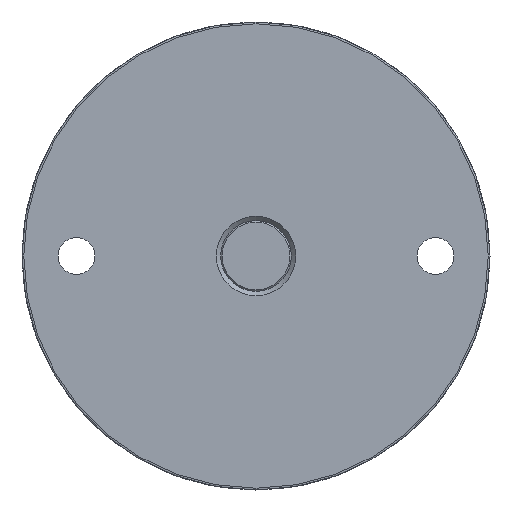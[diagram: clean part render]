
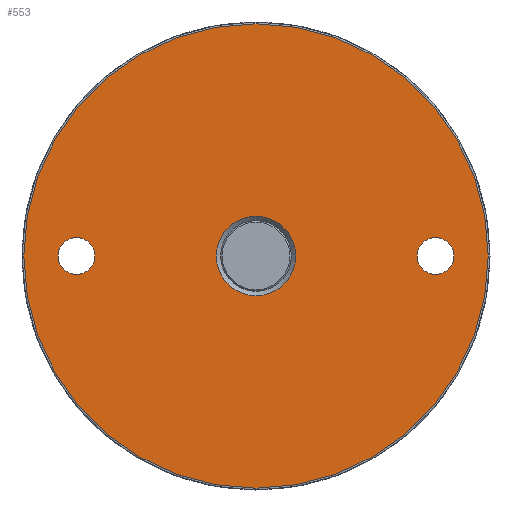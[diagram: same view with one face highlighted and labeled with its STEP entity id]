
A CAD part, front view. The second image highlights one B-rep face of the part: STEP entity #553.
In plain terms, the highlighted planar face has unit normal (0, -1, 0).
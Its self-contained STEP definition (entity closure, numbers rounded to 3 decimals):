
#37=CARTESIAN_POINT('',(1338.657,979.046,0.0));
#38=VERTEX_POINT('',#37);
#65=CARTESIAN_POINT('',(1180.857,979.046,0.0));
#66=VERTEX_POINT('',#65);
#67=CARTESIAN_POINT('',(1259.757,979.046,0.0));
#68=DIRECTION('',(0.0,-1.0,0.0));
#69=DIRECTION('',(1.0,0.0,0.0));
#70=AXIS2_PLACEMENT_3D('',#67,#68,#69);
#71=CIRCLE('',#70,78.9);
#72=EDGE_CURVE('',#66,#38,#71,.T.);
#74=CARTESIAN_POINT('',(1259.757,979.046,0.0));
#75=DIRECTION('',(0.0,-1.0,0.0));
#76=DIRECTION('',(1.0,0.0,0.0));
#77=AXIS2_PLACEMENT_3D('',#74,#75,#76);
#78=CIRCLE('',#77,78.9);
#79=EDGE_CURVE('',#38,#66,#78,.T.);
#484=CARTESIAN_POINT('',(1180.856,979.046,-78.901));
#485=DIRECTION('',(0.0,1.0,0.0));
#486=DIRECTION('',(0.0,0.0,1.0));
#487=AXIS2_PLACEMENT_3D('',#484,#485,#486);
#488=PLANE('',#487);
#489=ORIENTED_EDGE('',*,*,#79,.T.);
#490=ORIENTED_EDGE('',*,*,#72,.T.);
#491=EDGE_LOOP('',(#489,#490));
#492=FACE_OUTER_BOUND('',#491,.T.);
#493=CARTESIAN_POINT('',(1246.257,979.046,0.0));
#494=VERTEX_POINT('',#493);
#495=CARTESIAN_POINT('',(1273.257,979.046,0.0));
#496=VERTEX_POINT('',#495);
#497=CARTESIAN_POINT('',(1259.757,979.046,0.0));
#498=DIRECTION('',(0.0,-1.0,0.0));
#499=DIRECTION('',(1.0,0.0,0.0));
#500=AXIS2_PLACEMENT_3D('',#497,#498,#499);
#501=CIRCLE('',#500,13.5);
#502=EDGE_CURVE('',#494,#496,#501,.T.);
#503=ORIENTED_EDGE('',*,*,#502,.F.);
#504=CARTESIAN_POINT('',(1259.757,979.046,0.0));
#505=DIRECTION('',(0.0,-1.0,0.0));
#506=DIRECTION('',(1.0,0.0,0.0));
#507=AXIS2_PLACEMENT_3D('',#504,#505,#506);
#508=CIRCLE('',#507,13.5);
#509=EDGE_CURVE('',#496,#494,#508,.T.);
#510=ORIENTED_EDGE('',*,*,#509,.F.);
#511=EDGE_LOOP('',(#503,#510));
#512=FACE_BOUND('',#511,.T.);
#513=CARTESIAN_POINT('',(1198.757,979.046,-6.25));
#514=VERTEX_POINT('',#513);
#515=CARTESIAN_POINT('',(1198.757,979.046,6.25));
#516=VERTEX_POINT('',#515);
#517=CARTESIAN_POINT('',(1198.757,979.046,0.));
#518=DIRECTION('',(0.0,-1.0,0.0));
#519=DIRECTION('',(0.0,0.0,1.0));
#520=AXIS2_PLACEMENT_3D('',#517,#518,#519);
#521=CIRCLE('',#520,6.25);
#522=EDGE_CURVE('',#514,#516,#521,.T.);
#523=ORIENTED_EDGE('',*,*,#522,.F.);
#524=CARTESIAN_POINT('',(1198.757,979.046,0.));
#525=DIRECTION('',(0.0,-1.0,0.0));
#526=DIRECTION('',(0.0,0.0,1.0));
#527=AXIS2_PLACEMENT_3D('',#524,#525,#526);
#528=CIRCLE('',#527,6.25);
#529=EDGE_CURVE('',#516,#514,#528,.T.);
#530=ORIENTED_EDGE('',*,*,#529,.F.);
#531=EDGE_LOOP('',(#523,#530));
#532=FACE_BOUND('',#531,.T.);
#533=CARTESIAN_POINT('',(1320.757,979.046,-6.25));
#534=VERTEX_POINT('',#533);
#535=CARTESIAN_POINT('',(1320.757,979.046,6.25));
#536=VERTEX_POINT('',#535);
#537=CARTESIAN_POINT('',(1320.757,979.046,0.));
#538=DIRECTION('',(0.0,-1.0,0.0));
#539=DIRECTION('',(0.0,0.0,1.0));
#540=AXIS2_PLACEMENT_3D('',#537,#538,#539);
#541=CIRCLE('',#540,6.25);
#542=EDGE_CURVE('',#534,#536,#541,.T.);
#543=ORIENTED_EDGE('',*,*,#542,.F.);
#544=CARTESIAN_POINT('',(1320.757,979.046,0.));
#545=DIRECTION('',(0.0,-1.0,0.0));
#546=DIRECTION('',(0.0,0.0,1.0));
#547=AXIS2_PLACEMENT_3D('',#544,#545,#546);
#548=CIRCLE('',#547,6.25);
#549=EDGE_CURVE('',#536,#534,#548,.T.);
#550=ORIENTED_EDGE('',*,*,#549,.F.);
#551=EDGE_LOOP('',(#543,#550));
#552=FACE_BOUND('',#551,.T.);
#553=ADVANCED_FACE('',(#492,#512,#532,#552),#488,.F.);
